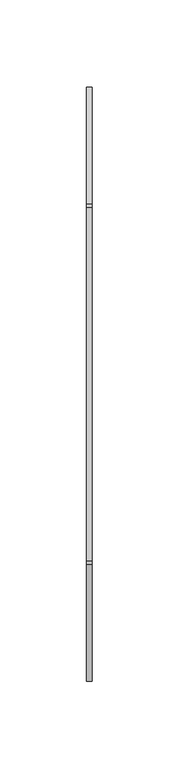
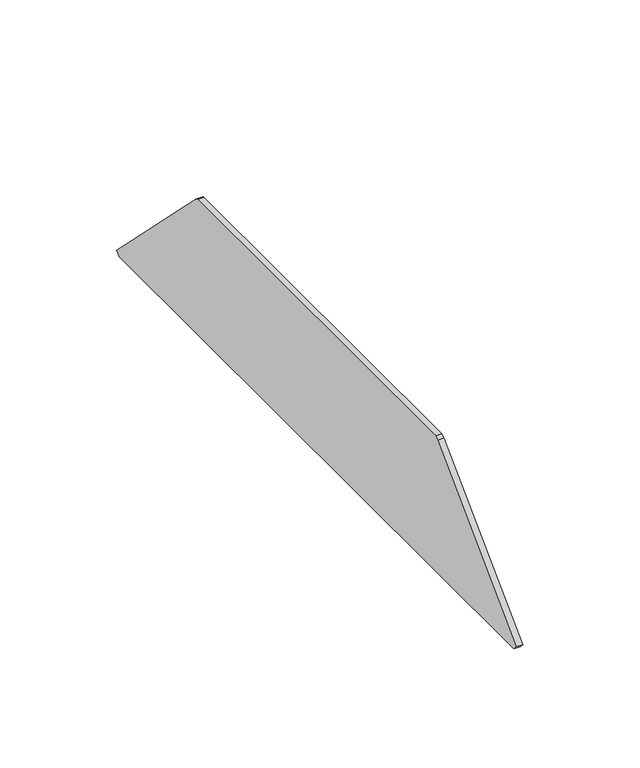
"""IFC4 building model written with IfcOpenShell, lengths in millimetres: cable carrier fitting geometry, Electrical_Installation_Hager_End-Piece : Electrical_Installation_Hager_End-Piece."""

from ifc_helpers import new_model, si_unit, point, frame, frame_2d, origin, place, context, project, spatial, polyline, circle_curve, trimmed, segment, composite_curve, outline, extrude, source, transform, mapped, element, save


def cable_carrier_fitting_6175421c(model_context):
    return source(origin(), model_context, "Body", "SweptSolid", [
        extrude(outline(composite_curve([segment(polyline([(170.7213203, -32.8786797), (168.6, -35.0), (-168.6, -35.0), (-170.7213203, -32.8786797), (-103.5142136, 34.3284271)]), True, "CONTINUOUS"), segment(trimmed(circle_curve(frame_2d((-101.0170755, 32.4593317)), 3.1191692), [point((-103.5142136, 34.3284271))], [point((-101.7124549, 35.5))], False, "CARTESIAN"), True, "CONTINUOUS"), segment(polyline([(-101.7124549, 35.5), (101.7124549, 35.5)]), True, "CONTINUOUS"), segment(trimmed(circle_curve(frame_2d((100.5004738, 31.6648514)), 4.0220969), [point((101.7124549, 35.5))], [point((103.5142136, 34.3284271))], False, "CARTESIAN"), True, "CONTINUOUS"), segment(polyline([(103.5142136, 34.3284271), (170.7213203, -32.8786797)]), True, "CONTINUOUS")], self_intersect=False)), frame((0.0, 0.0, 0.0), z_axis=(1.0, 0.0, 0.0), x_axis=(0.0, 1.0, 0.0)), (0.0, 0.0, 1.0), 3.0),
    ])


if __name__ == "__main__":
    model = new_model("IFC4")
    model_context = context("Model", 3, world=origin())
    ifc_project = project(units=[si_unit("LENGTHUNIT", "METRE", prefix="MILLI")], contexts=[model_context])
    site = spatial("IfcSite", under=ifc_project)
    building = spatial("IfcBuilding", under=site)
    placement = place(None, origin())
    cable_carrier_fitting_shape = cable_carrier_fitting_6175421c(model_context)
    element("IfcCableCarrierFitting", 1, ObjectType="Electrical_Installation_Hager_End-Piece : Electrical_Installation_Hager_End-Piece", at=placement, inside=building, context=model_context, shape_type="MappedRepresentation", body=[
        mapped(cable_carrier_fitting_shape, transform((0.0, 0.0, 0.0), x_axis=(1.0, 0.0, 0.0), y_axis=(0.0, 1.0, 0.0), z_axis=(0.0, 0.0, 1.0))),
    ])
    save(model, "model.ifc")
